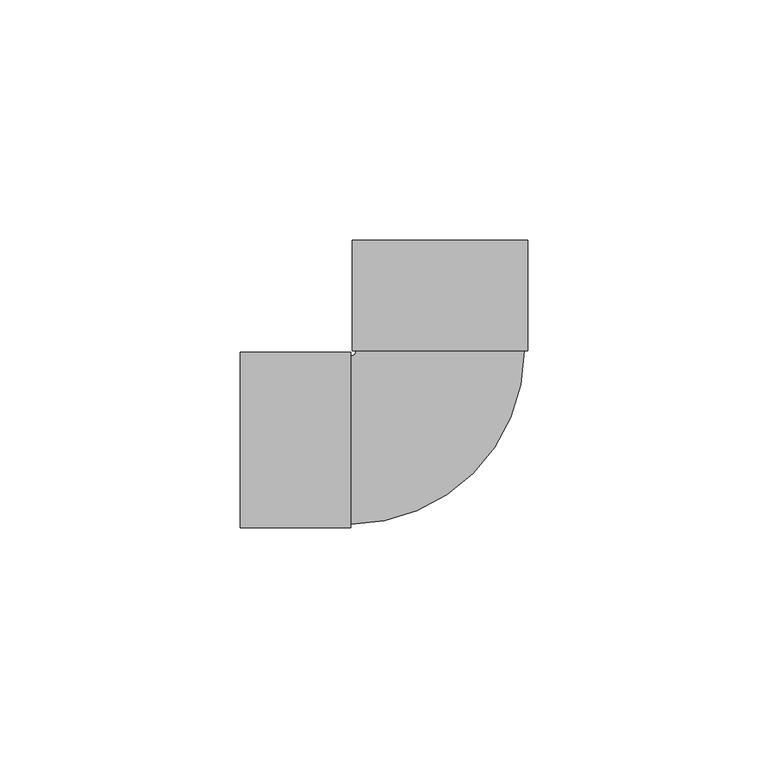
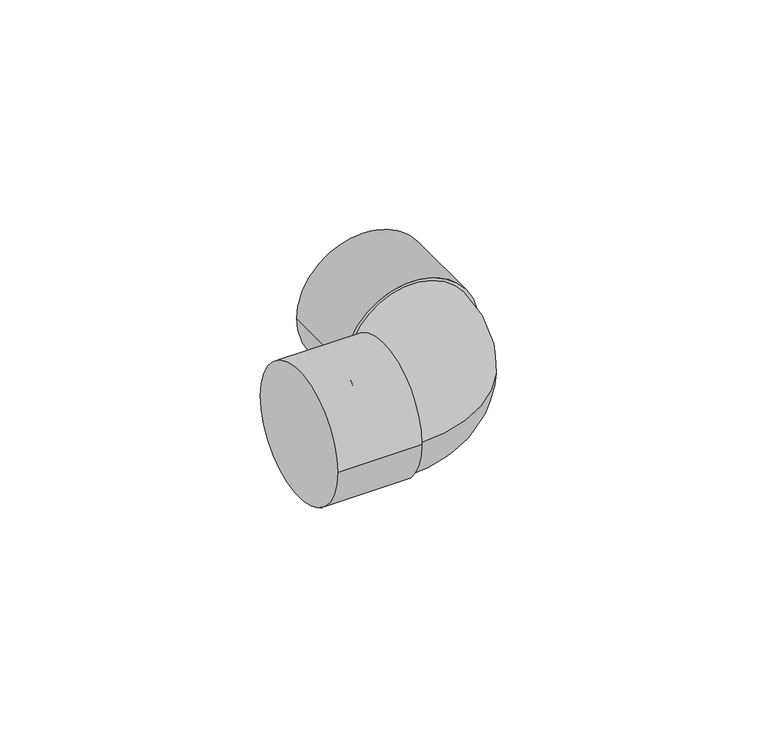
"""IFC4 building model written with IfcOpenShell, lengths in millimetres: pipe fitting geometry, Cotovelo - Soldado - CU : Padrão."""

from ifc_helpers import new_model, si_unit, point, frame, origin, place, context, project, spatial, circle_curve, ellipse_curve, trimmed, source, transform, mapped, element, save
from ifc_brep_helpers import plane_surface, cylinder_surface, revolved_surface, advanced_brep


def pipe_fitting_8793459d(model_context):
    return source(origin(), model_context, "Body", "AdvancedBrep", [
        advanced_brep(
        [(-17.497366, 18.6024779, 0.0), (-18.6, 17.5, 0.0), (-18.6, -17.5, 0.0), (17.5026337, 18.5975217, 0.0), (-41.6, -18.28, 0.0), (-41.6, 18.28, 0.0), (-18.6, -18.28, 0.0), (-18.6, 18.28, 0.0), (-18.2741091, 41.6025881, 0.0), (18.2858905, 41.5974111, 0.0), (-18.277366, 18.6025883, 0.0), (18.2826336, 18.5974113, 0.0)],
        [
            (0, 1, circle_curve(frame((-18.6, 18.602634, 0.0), z_axis=(0.0, 0.0, -1.0), x_axis=(0.0, -1.0, 0.0)), 1.102634)),
            (1, 2, circle_curve(frame((-18.6, 0.0, 0.0), z_axis=(1.0, 0.0, 0.0), x_axis=(0.0, 1.0, 0.0)), 17.5)),
            (2, 3, circle_curve(frame((-18.6, 18.602634, 0.0), z_axis=(0.0, 0.0, 1.0), x_axis=(0.0, -1.0, 0.0)), 36.102634)),
            (3, 0, circle_curve(frame((0.0026338, 18.5999998, 0.0), z_axis=(-0.00014160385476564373, -0.999999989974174, 0.0), x_axis=(-0.999999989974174, 0.00014160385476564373, 0.0)), 17.5)),
            (0, 3, circle_curve(frame((0.0026338, 18.5999998, 0.0), z_axis=(-0.00014160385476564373, -0.999999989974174, 0.0), x_axis=(-0.999999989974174, 0.00014160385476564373, 0.0)), 17.5)),
            (2, 1, circle_curve(frame((-18.6, 0.0, 0.0), z_axis=(1.0, 0.0, 0.0), x_axis=(0.0, 1.0, 0.0)), 17.5)),
            (4, 5, circle_curve(frame((-41.6, 0.0, 0.0), z_axis=(-1.0, 0.0, 0.0), x_axis=(0.0, 1.0, 0.0)), 18.28)),
            (5, 4, circle_curve(frame((-41.6, 0.0, 0.0), z_axis=(-1.0, 0.0, 0.0), x_axis=(0.0, 1.0, 0.0)), 18.28)),
            (6, 7, circle_curve(frame((-18.6, 0.0, 0.0), z_axis=(1.0, 0.0, 0.0), x_axis=(0.0, 1.0, 0.0)), 18.28)),
            (7, 6, circle_curve(frame((-18.6, 0.0, 0.0), z_axis=(1.0, 0.0, 0.0), x_axis=(0.0, 1.0, 0.0)), 18.28)),
            (4, 6),
            (7, 5),
            (8, 9, circle_curve(frame((0.0058907, 41.5999996, 0.0), z_axis=(0.00014160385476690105, 0.9999999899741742, 0.0), x_axis=(0.9999999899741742, -0.00014160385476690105, 0.0)), 18.28)),
            (9, 8, circle_curve(frame((0.0058907, 41.5999996, 0.0), z_axis=(0.00014160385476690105, 0.9999999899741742, 0.0), x_axis=(0.9999999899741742, -0.00014160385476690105, 0.0)), 18.28)),
            (10, 11, circle_curve(frame((0.0026338, 18.5999998, 0.0), z_axis=(-0.00014160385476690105, -0.9999999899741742, 0.0), x_axis=(0.9999999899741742, -0.00014160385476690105, 0.0)), 18.28)),
            (11, 10, circle_curve(frame((0.0026338, 18.5999998, 0.0), z_axis=(-0.00014160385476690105, -0.9999999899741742, 0.0), x_axis=(0.9999999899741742, -0.00014160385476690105, 0.0)), 18.28)),
            (8, 10),
            (11, 9),
        ],
        [
            revolved_surface(trimmed(ellipse_curve(frame((-18.6, 0.0, 0.0), z_axis=(-1.0, 0.0, 0.0), x_axis=(0.0, 1.0, 0.0)), 17.5, 17.5), [point((-18.6, -17.5, 0.0))], [point((-18.6, 17.5, 0.0))], True, "CARTESIAN"), (-18.6, 18.602634, 0.0), (0.0, 0.0, 1.0)),
            revolved_surface(trimmed(ellipse_curve(frame((-18.6, 0.0, 0.0), z_axis=(-1.0, 0.0, 0.0), x_axis=(0.0, 1.0, 0.0)), 17.5, 17.5), [point((-18.6, 17.5, 0.0))], [point((-18.6, -17.5, 0.0))], True, "CARTESIAN"), (-18.6, 18.602634, 0.0), (0.0, 0.0, 1.0)),
            plane_surface(frame((-41.6, 0.0, 0.0), z_axis=(-1.0, 0.0, 0.0), x_axis=(0.0, 0.0, 1.0))),
            plane_surface(frame((-18.6, 0.0, 0.0), z_axis=(1.0, 0.0, 0.0), x_axis=(0.0, 0.0, 1.0))),
            cylinder_surface(frame((-41.6, 0.0, 0.0), z_axis=(-1.0, 0.0, 0.0), x_axis=(0.0, 1.0, 0.0)), 18.28),
            plane_surface(frame((0.0058907, 41.5999996, 0.0), z_axis=(0.00014160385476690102, 0.9999999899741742, 0.0), x_axis=(0.0, 0.0, 1.0))),
            plane_surface(frame((0.0026338, 18.5999998, 0.0), z_axis=(-0.00014160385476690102, -0.9999999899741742, 0.0), x_axis=(0.0, 0.0, 1.0))),
            cylinder_surface(frame((0.0058907, 41.5999996, 0.0), z_axis=(0.00014160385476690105, 0.9999999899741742, 0.0), x_axis=(0.9999999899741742, -0.00014160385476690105, 0.0)), 18.28),
        ],
        [
            (0, [[1, 2, 3, 4]]),
            (1, [[-1, 5, -3, 6]]),
            (2, [[7, 8]]),
            (3, [[9, 10], [-2, -6]]),
            (4, [[-7, 11, -10, 12]]),
            (4, [[-8, -12, -9, -11]]),
            (5, [[13, 14]]),
            (6, [[15, 16], [-4, -5]]),
            (7, [[-13, 17, -16, 18]]),
            (7, [[-14, -18, -15, -17]]),
        ],
    ),
    ])


if __name__ == "__main__":
    model = new_model("IFC4")
    model_context = context("Model", 3, world=origin())
    ifc_project = project(units=[si_unit("LENGTHUNIT", "METRE", prefix="MILLI")], contexts=[model_context])
    site = spatial("IfcSite", under=ifc_project)
    building = spatial("IfcBuilding", under=site)
    placement = place(None, origin())
    pipe_fitting_shape = pipe_fitting_8793459d(model_context)
    element("IfcPipeFitting", 1, ObjectType="Cotovelo - Soldado - CU : Padrão", at=placement, inside=building, context=model_context, shape_type="MappedRepresentation", body=[
        mapped(pipe_fitting_shape, transform((0.0, 0.0, 0.0), x_axis=(1.0, 0.0, 0.0), y_axis=(0.0, 1.0, 0.0), z_axis=(0.0, 0.0, 1.0))),
    ])
    save(model, "model.ifc")
